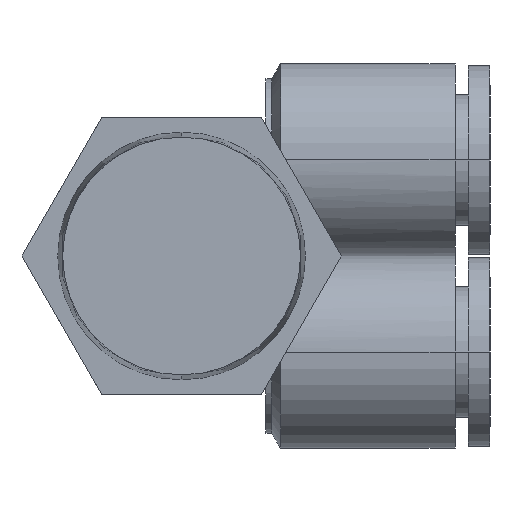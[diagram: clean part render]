
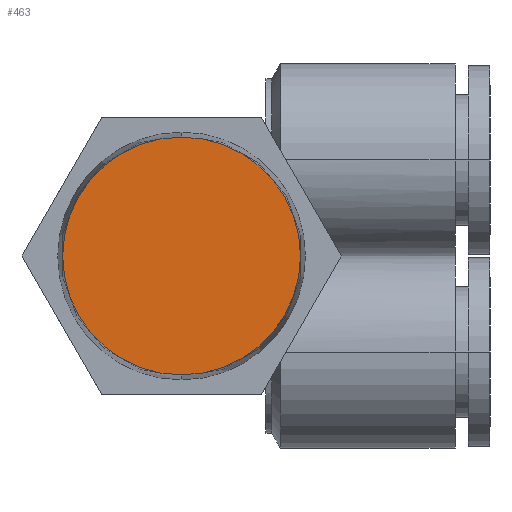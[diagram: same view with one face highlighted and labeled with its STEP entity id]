
A CAD part, front view. The second image highlights one B-rep face of the part: STEP entity #463.
In plain terms, the highlighted planar face has unit normal (0, -1, 0).
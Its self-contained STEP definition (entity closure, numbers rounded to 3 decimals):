
#381 = EDGE_CURVE ( 'NONE', #2640, #1841, #2850, .T. ) ;
#463 = ADVANCED_FACE ( 'NONE', ( #772 ), #2275, .T. ) ;
#614 = CIRCLE ( 'NONE', #984, 8.172 ) ;
#772 = FACE_OUTER_BOUND ( 'NONE', #1973, .T. ) ;
#791 = DIRECTION ( 'NONE',  ( 0., -1., 0. ) ) ;
#858 = CARTESIAN_POINT ( 'NONE',  ( 0., -5.1, 8.172 ) ) ;
#980 = AXIS2_PLACEMENT_3D ( 'NONE', #2159, #3681, #2798 ) ;
#984 = AXIS2_PLACEMENT_3D ( 'NONE', #1341, #1050, #2248 ) ;
#1050 = DIRECTION ( 'NONE',  ( 0., -1., 0. ) ) ;
#1309 = ORIENTED_EDGE ( 'NONE', *, *, #381, .T. ) ;
#1341 = CARTESIAN_POINT ( 'NONE',  ( 0., -5.1, 0. ) ) ;
#1352 = CARTESIAN_POINT ( 'NONE',  ( 9.5, -5.1, 19. ) ) ;
#1841 = VERTEX_POINT ( 'NONE', #3749 ) ;
#1973 = EDGE_LOOP ( 'NONE', ( #1309, #2598 ) ) ;
#2159 = CARTESIAN_POINT ( 'NONE',  ( 0., -5.1, 0. ) ) ;
#2248 = DIRECTION ( 'NONE',  ( 0., 0., -1. ) ) ;
#2275 = PLANE ( 'NONE',  #3396 ) ;
#2514 = DIRECTION ( 'NONE',  ( 0., 0., -1. ) ) ;
#2598 = ORIENTED_EDGE ( 'NONE', *, *, #3563, .T. ) ;
#2640 = VERTEX_POINT ( 'NONE', #858 ) ;
#2798 = DIRECTION ( 'NONE',  ( 0., 0., -1. ) ) ;
#2850 = CIRCLE ( 'NONE', #980, 8.172 ) ;
#3396 = AXIS2_PLACEMENT_3D ( 'NONE', #1352, #791, #2514 ) ;
#3563 = EDGE_CURVE ( 'NONE', #1841, #2640, #614, .T. ) ;
#3681 = DIRECTION ( 'NONE',  ( 0., -1., 0. ) ) ;
#3749 = CARTESIAN_POINT ( 'NONE',  ( 0., -5.1, -8.172 ) ) ;
